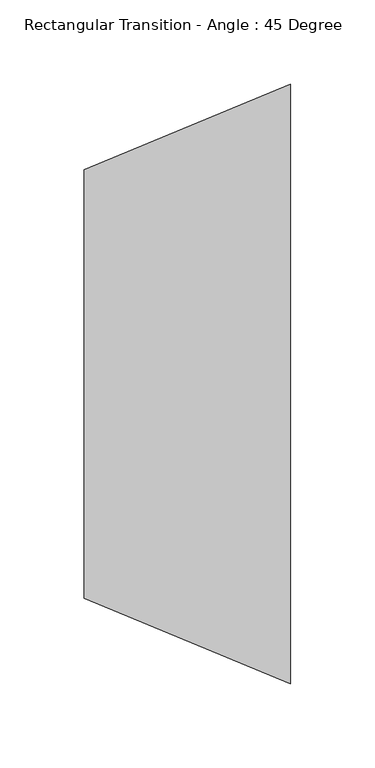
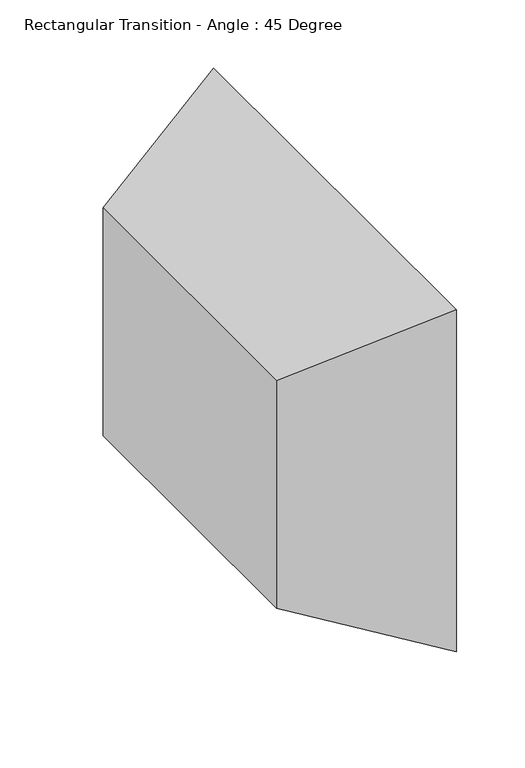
"""IFC4 building model written with IfcOpenShell, lengths in millimetres: duct fitting geometry, Rectangular Transition - Angle : 45 Degree."""

from ifc_helpers import new_model, si_unit, origin, place, context, project, spatial, faceted_brep, source, transform, mapped, element, save


def rectangular_transition_angle_45_degree_74625674(model_context):
    return source(origin(), model_context, "Body", "Brep", [
        faceted_brep([(122.642049, -177.8, 152.4), (122.642049, -177.8, -152.4), (122.642049, 177.8, -152.4), (122.642049, 177.8, 152.4), (0.0, -127.0, 101.6), (0.0, 127.0, 101.6), (0.0, 127.0, -101.6), (0.0, -127.0, -101.6)], [[[0, 1, 2, 3]], [[4, 5, 6, 7]], [[4, 7, 1, 0]], [[7, 6, 2, 1]], [[6, 5, 3, 2]], [[5, 4, 0, 3]]]),
    ])


if __name__ == "__main__":
    model = new_model("IFC4")
    model_context = context("Model", 3, world=origin())
    ifc_project = project(units=[si_unit("LENGTHUNIT", "METRE", prefix="MILLI")], contexts=[model_context])
    site = spatial("IfcSite", under=ifc_project)
    building = spatial("IfcBuilding", under=site)
    placement = place(None, origin())
    rectangular_transition_angle_45_degree_shape = rectangular_transition_angle_45_degree_74625674(model_context)
    element("IfcDuctFitting", 1, ObjectType="Rectangular Transition - Angle : 45 Degree", at=placement, inside=building, context=model_context, shape_type="MappedRepresentation", body=[
        mapped(rectangular_transition_angle_45_degree_shape, transform((0.0, 0.0, 0.0), x_axis=(1.0, 0.0, 0.0), y_axis=(0.0, 1.0, 0.0), z_axis=(0.0, 0.0, 1.0))),
    ])
    save(model, "model.ifc")
